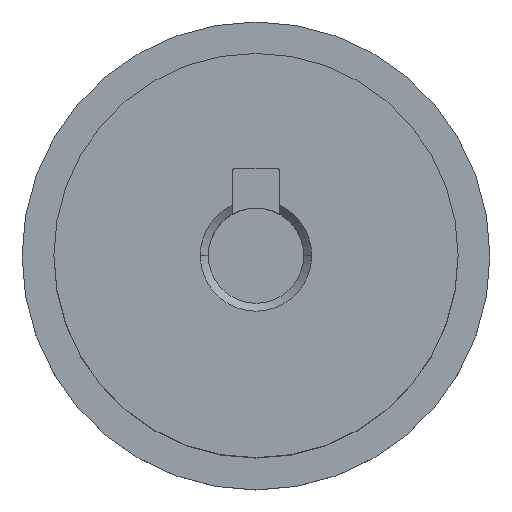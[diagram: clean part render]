
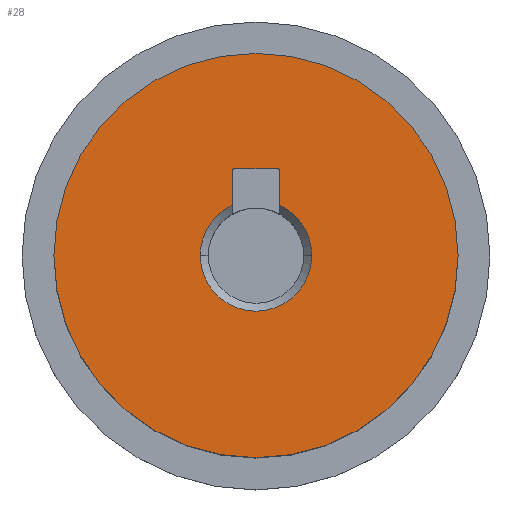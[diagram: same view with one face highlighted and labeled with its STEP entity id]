
A CAD part, top view. The second image highlights one B-rep face of the part: STEP entity #28.
In plain terms, the highlighted planar face has unit normal (0, 0, 1).
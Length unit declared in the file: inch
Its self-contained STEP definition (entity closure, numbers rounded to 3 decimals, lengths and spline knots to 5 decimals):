
#25 = CARTESIAN_POINT ( 'NONE',  ( -0.05906, 0.15551, 0.61811 ) ) ;
#28 = ADVANCED_FACE ( 'NONE', ( #965, #848 ), #613, .T. ) ;
#58 = EDGE_CURVE ( 'NONE', #465, #927, #130, .T. ) ;
#129 = EDGE_CURVE ( 'NONE', #137, #195, #1267, .T. ) ;
#130 = CIRCLE ( 'NONE', #948, 0.5 ) ;
#137 = VERTEX_POINT ( 'NONE', #268 ) ;
#147 = VERTEX_POINT ( 'NONE', #456 ) ;
#159 = EDGE_CURVE ( 'NONE', #378, #137, #1145, .T. ) ;
#180 = VECTOR ( 'NONE', #383, 39.37008 ) ;
#192 = CIRCLE ( 'NONE', #565, 0.5 ) ;
#195 = VERTEX_POINT ( 'NONE', #299 ) ;
#202 = CARTESIAN_POINT ( 'NONE',  ( 0., 0.21506, 0.61811 ) ) ;
#204 = EDGE_CURVE ( 'NONE', #1315, #1276, #1351, .T. ) ;
#205 = CARTESIAN_POINT ( 'NONE',  ( 0., 0., 0.61811 ) ) ;
#214 = VERTEX_POINT ( 'NONE', #495 ) ;
#255 = DIRECTION ( 'NONE',  ( 0., 0., 1. ) ) ;
#257 = ORIENTED_EDGE ( 'NONE', *, *, #847, .F. ) ;
#259 = CARTESIAN_POINT ( 'NONE',  ( -0.5, 0., 0.61811 ) ) ;
#260 = DIRECTION ( 'NONE',  ( 1., 0., 0. ) ) ;
#268 = CARTESIAN_POINT ( 'NONE',  ( -0.1378, 0., 0.61811 ) ) ;
#288 = VECTOR ( 'NONE', #1242, 39.37008 ) ;
#292 = CARTESIAN_POINT ( 'NONE',  ( 0.05906, 0.20915, 0.61811 ) ) ;
#299 = CARTESIAN_POINT ( 'NONE',  ( 0.1378, 0., 0.61811 ) ) ;
#338 = DIRECTION ( 'NONE',  ( 1., 0., 0. ) ) ;
#350 = DIRECTION ( 'NONE',  ( 0., 1., 0. ) ) ;
#358 = DIRECTION ( 'NONE',  ( 1., 0., 0. ) ) ;
#372 = DIRECTION ( 'NONE',  ( 0., 0., 1. ) ) ;
#378 = VERTEX_POINT ( 'NONE', #975 ) ;
#383 = DIRECTION ( 'NONE',  ( 0., -1., 0. ) ) ;
#386 = ORIENTED_EDGE ( 'NONE', *, *, #900, .T. ) ;
#446 = CARTESIAN_POINT ( 'NONE',  ( 0.05315, 0.20915, 0.61811 ) ) ;
#447 = LINE ( 'NONE', #880, #1064 ) ;
#455 = CARTESIAN_POINT ( 'NONE',  ( 0., 0., 0.61811 ) ) ;
#456 = CARTESIAN_POINT ( 'NONE',  ( 0.05906, 0.1245, 0.61811 ) ) ;
#465 = VERTEX_POINT ( 'NONE', #984 ) ;
#477 = DIRECTION ( 'NONE',  ( 1., 0., 0. ) ) ;
#486 = EDGE_CURVE ( 'NONE', #1315, #378, #972, .T. ) ;
#495 = CARTESIAN_POINT ( 'NONE',  ( 0.05315, 0.21506, 0.61811 ) ) ;
#505 = AXIS2_PLACEMENT_3D ( 'NONE', #1132, #711, #1354 ) ;
#508 = CARTESIAN_POINT ( 'NONE',  ( 0., 0., 0.61811 ) ) ;
#565 = AXIS2_PLACEMENT_3D ( 'NONE', #455, #372, #260 ) ;
#593 = ORIENTED_EDGE ( 'NONE', *, *, #159, .F. ) ;
#609 = CIRCLE ( 'NONE', #803, 0.00591 ) ;
#613 = PLANE ( 'NONE',  #1245 ) ;
#662 = EDGE_CURVE ( 'NONE', #195, #147, #1038, .T. ) ;
#676 = DIRECTION ( 'NONE',  ( 1., 0., 0. ) ) ;
#702 = EDGE_LOOP ( 'NONE', ( #991, #770 ) ) ;
#707 = ORIENTED_EDGE ( 'NONE', *, *, #129, .F. ) ;
#711 = DIRECTION ( 'NONE',  ( 0., 0., -1. ) ) ;
#770 = ORIENTED_EDGE ( 'NONE', *, *, #58, .T. ) ;
#792 = DIRECTION ( 'NONE',  ( 1., 0., 0. ) ) ;
#803 = AXIS2_PLACEMENT_3D ( 'NONE', #446, #1208, #1087 ) ;
#829 = CARTESIAN_POINT ( 'NONE',  ( -0.05906, 0.20915, 0.61811 ) ) ;
#832 = LINE ( 'NONE', #202, #288 ) ;
#847 = EDGE_CURVE ( 'NONE', #214, #1276, #832, .T. ) ;
#848 = FACE_OUTER_BOUND ( 'NONE', #702, .T. ) ;
#880 = CARTESIAN_POINT ( 'NONE',  ( 0.05906, 0.15551, 0.61811 ) ) ;
#881 = AXIS2_PLACEMENT_3D ( 'NONE', #205, #1329, #477 ) ;
#888 = CARTESIAN_POINT ( 'NONE',  ( 0., 0., 0.61811 ) ) ;
#896 = DIRECTION ( 'NONE',  ( 0., 0., 1. ) ) ;
#898 = AXIS2_PLACEMENT_3D ( 'NONE', #1221, #255, #676 ) ;
#900 = EDGE_CURVE ( 'NONE', #214, #1178, #609, .T. ) ;
#904 = ORIENTED_EDGE ( 'NONE', *, *, #1286, .F. ) ;
#927 = VERTEX_POINT ( 'NONE', #259 ) ;
#948 = AXIS2_PLACEMENT_3D ( 'NONE', #1099, #1189, #358 ) ;
#965 = FACE_BOUND ( 'NONE', #1257, .T. ) ;
#972 = LINE ( 'NONE', #25, #180 ) ;
#973 = DIRECTION ( 'NONE',  ( 0., 0., 1. ) ) ;
#975 = CARTESIAN_POINT ( 'NONE',  ( -0.05906, 0.1245, 0.61811 ) ) ;
#984 = CARTESIAN_POINT ( 'NONE',  ( 0.5, 0., 0.61811 ) ) ;
#989 = AXIS2_PLACEMENT_3D ( 'NONE', #888, #896, #792 ) ;
#991 = ORIENTED_EDGE ( 'NONE', *, *, #1061, .T. ) ;
#1038 = CIRCLE ( 'NONE', #881, 0.1378 ) ;
#1051 = ORIENTED_EDGE ( 'NONE', *, *, #204, .T. ) ;
#1061 = EDGE_CURVE ( 'NONE', #927, #465, #192, .T. ) ;
#1064 = VECTOR ( 'NONE', #350, 39.37008 ) ;
#1083 = ORIENTED_EDGE ( 'NONE', *, *, #486, .F. ) ;
#1087 = DIRECTION ( 'NONE',  ( 1., 0., 0. ) ) ;
#1099 = CARTESIAN_POINT ( 'NONE',  ( 0., 0., 0.61811 ) ) ;
#1132 = CARTESIAN_POINT ( 'NONE',  ( -0.05315, 0.20915, 0.61811 ) ) ;
#1145 = CIRCLE ( 'NONE', #989, 0.1378 ) ;
#1172 = ORIENTED_EDGE ( 'NONE', *, *, #662, .F. ) ;
#1178 = VERTEX_POINT ( 'NONE', #292 ) ;
#1189 = DIRECTION ( 'NONE',  ( 0., 0., 1. ) ) ;
#1208 = DIRECTION ( 'NONE',  ( 0., 0., -1. ) ) ;
#1221 = CARTESIAN_POINT ( 'NONE',  ( 0., 0., 0.61811 ) ) ;
#1242 = DIRECTION ( 'NONE',  ( -1., 0., 0. ) ) ;
#1245 = AXIS2_PLACEMENT_3D ( 'NONE', #508, #973, #338 ) ;
#1257 = EDGE_LOOP ( 'NONE', ( #593, #1083, #1051, #257, #386, #904, #1172, #707 ) ) ;
#1267 = CIRCLE ( 'NONE', #898, 0.1378 ) ;
#1276 = VERTEX_POINT ( 'NONE', #1304 ) ;
#1286 = EDGE_CURVE ( 'NONE', #147, #1178, #447, .T. ) ;
#1304 = CARTESIAN_POINT ( 'NONE',  ( -0.05315, 0.21506, 0.61811 ) ) ;
#1315 = VERTEX_POINT ( 'NONE', #829 ) ;
#1329 = DIRECTION ( 'NONE',  ( 0., 0., 1. ) ) ;
#1351 = CIRCLE ( 'NONE', #505, 0.00591 ) ;
#1354 = DIRECTION ( 'NONE',  ( 1., 0., 0. ) ) ;
